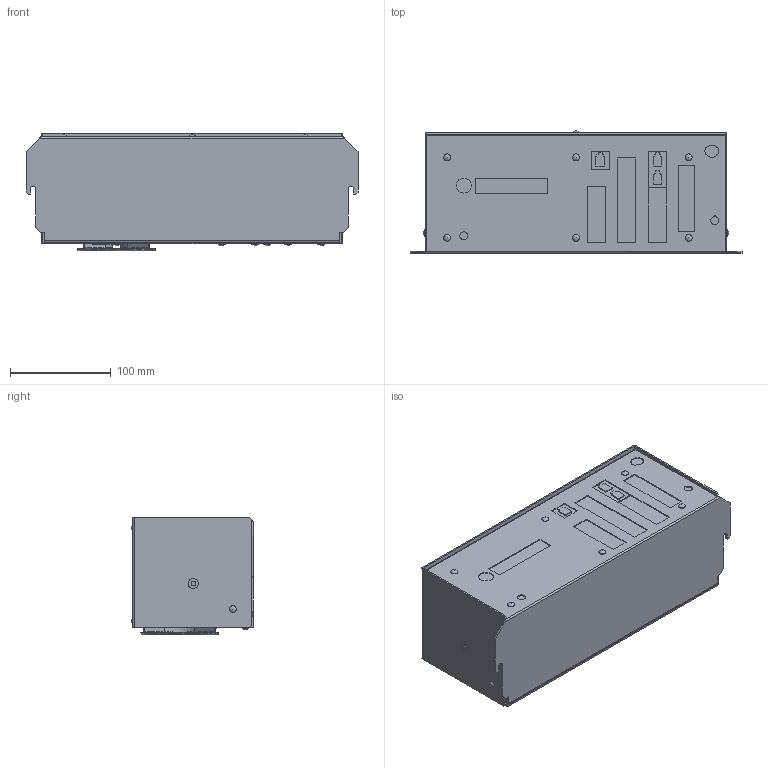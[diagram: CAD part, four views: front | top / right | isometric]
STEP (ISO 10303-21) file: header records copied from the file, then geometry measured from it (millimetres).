
FILE_DESCRIPTION((''),'2;1');
FILE_NAME('C:\Users\h-mitaka\Desktop\3D変換ﾃﾞｰﾀ\3D-01504C\C4300-00683.stp','2014-07-08T15:16:57',('h-mitaka'),(''),'Autodesk Inventor 2011','Autodesk Inventor 2011','');
FILE_SCHEMA(('AUTOMOTIVE_DESIGN { 1 0 10303 214 1 1 1 1 }'));
Length unit declared in the file: millimetre
Products named in the file (1): C4300-00683
Bounding box: 330 x 121.4 x 117.01 mm (x, y, z)
Volume: 250158.5 mm3; surface area: 334675.4 mm2
Topology: 1 solids, 1 shells, 344 faces, 1063 edges, 708 vertices
Faces by surface type: plane 217, cylinder 91, sphere 18, torus 16, bspline 2
Full cylindrical faces by diameter (mm): 6.882 x18, 7 x2, 8 x1, 10 x1, 15 x1, 17 x2, 21 x1, 31 x1, 35 x1, 45 x1, 49 x1, 59 x1, 63 x1, 73 x1, 76 x1, 77 x1
Entity records: 11905 total; most frequent: CARTESIAN_POINT 2801, ORIENTED_EDGE 1924, DIRECTION 1793, EDGE_CURVE 962, VERTEX_POINT 663, VECTOR 655, LINE 655, AXIS2_PLACEMENT_3D 569
